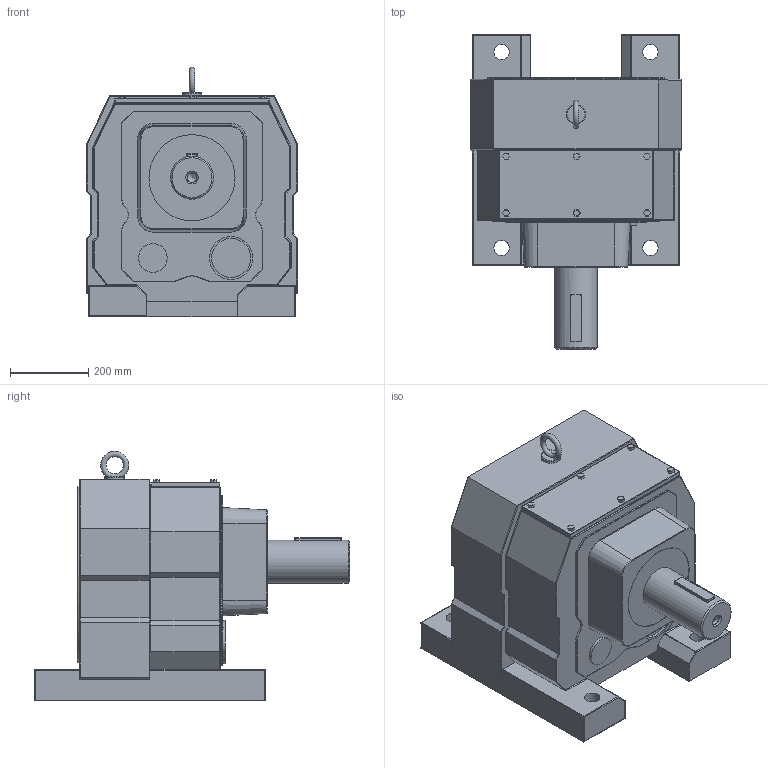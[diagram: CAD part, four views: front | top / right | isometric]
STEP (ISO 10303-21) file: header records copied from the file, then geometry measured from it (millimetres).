
FILE_DESCRIPTION((''),'2;1');
FILE_NAME('D:\PAWEŁ\ZLECENIA\2011 DualSystem\Przekładnie DR\DR140\STEP\DR140.stp','2012-06-11T12:44:47',('admin'),(''),'Autodesk Inventor 2009','Autodesk Inventor 2009','');
FILE_SCHEMA(('AUTOMOTIVE_DESIGN { 1 0 10303 214 1 1 1 1 }'));
Length unit declared in the file: millimetre
Products named in the file (1): DR140
Bounding box: 540 x 805 x 636.97 mm (x, y, z)
Volume: 116556904.1 mm3; surface area: 1978050.1 mm2
Topology: 2 solids, 2 shells, 469 faces, 1100 edges, 604 vertices
Faces by surface type: cylinder 226, plane 142, sphere 56, bspline 20, torus 19, cone 6
Full cylindrical faces by diameter (mm): 39 x4, 45 x4, 50 x1, 73.333 x1, 100 x1, 110 x2, 220 x1, 340 x1, 450 x1
Entity records: 14572 total; most frequent: CARTESIAN_POINT 3884, DIRECTION 2343, ORIENTED_EDGE 2036, EDGE_CURVE 1018, AXIS2_PLACEMENT_3D 890, VERTEX_POINT 600, VECTOR 563, LINE 563
